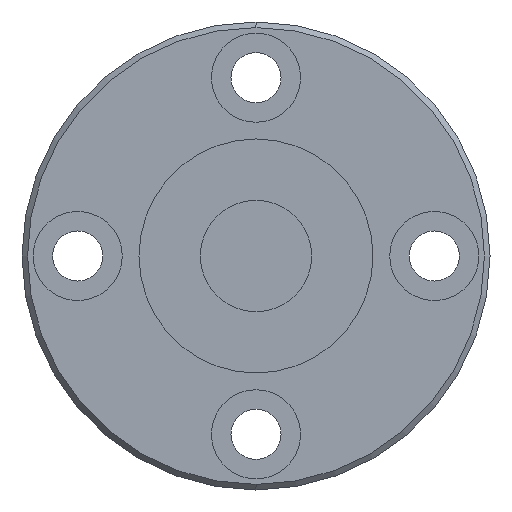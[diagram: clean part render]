
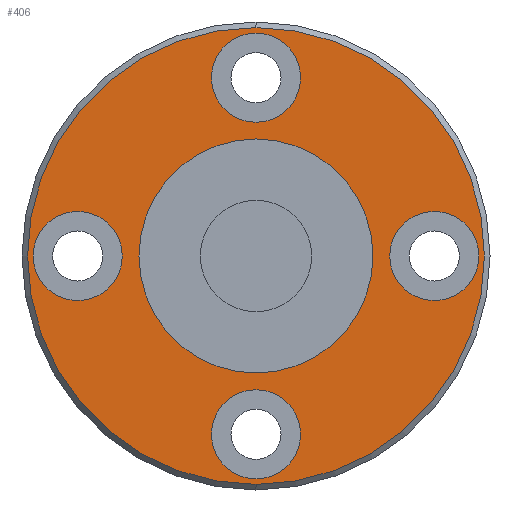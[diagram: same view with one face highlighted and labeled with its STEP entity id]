
A CAD part, left-side view. The second image highlights one B-rep face of the part: STEP entity #406.
In plain terms, the highlighted planar face has unit normal (-1, 0, 0).
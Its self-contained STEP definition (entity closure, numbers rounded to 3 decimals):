
#20 = CARTESIAN_POINT ( 'NONE',  ( 0., 0., 20. ) ) ;
#36 = CIRCLE ( 'NONE', #472, 4. ) ;
#40 = CIRCLE ( 'NONE', #2320, 10.5 ) ;
#62 = ORIENTED_EDGE ( 'NONE', *, *, #543, .F. ) ;
#91 = CARTESIAN_POINT ( 'NONE',  ( 0., -16., 0. ) ) ;
#95 = FACE_BOUND ( 'NONE', #1442, .T. ) ;
#146 = DIRECTION ( 'NONE',  ( 0., 0., 1. ) ) ;
#169 = DIRECTION ( 'NONE',  ( 0., -1., 0. ) ) ;
#187 = DIRECTION ( 'NONE',  ( 0., 0., -1. ) ) ;
#199 = VERTEX_POINT ( 'NONE', #20 ) ;
#232 = DIRECTION ( 'NONE',  ( -1., 0., 0. ) ) ;
#244 = DIRECTION ( 'NONE',  ( 0., -1., 0. ) ) ;
#250 = DIRECTION ( 'NONE',  ( 0., 0., 1. ) ) ;
#282 = DIRECTION ( 'NONE',  ( -1., 0., 0. ) ) ;
#302 = CIRCLE ( 'NONE', #1289, 4. ) ;
#328 = DIRECTION ( 'NONE',  ( -1., 0., 0. ) ) ;
#406 = ADVANCED_FACE ( 'NONE', ( #1185, #847, #462, #95, #475, #2262 ), #799, .F. ) ;
#408 = ORIENTED_EDGE ( 'NONE', *, *, #2014, .F. ) ;
#418 = AXIS2_PLACEMENT_3D ( 'NONE', #2102, #328, #1748 ) ;
#434 = CARTESIAN_POINT ( 'NONE',  ( 0., 16., -4. ) ) ;
#462 = FACE_BOUND ( 'NONE', #894, .T. ) ;
#472 = AXIS2_PLACEMENT_3D ( 'NONE', #1147, #1883, #250 ) ;
#475 = FACE_BOUND ( 'NONE', #693, .T. ) ;
#490 = CARTESIAN_POINT ( 'NONE',  ( 0., 0., -16. ) ) ;
#493 = CIRCLE ( 'NONE', #978, 20.5 ) ;
#523 = CARTESIAN_POINT ( 'NONE',  ( 0., 0., 16. ) ) ;
#543 = EDGE_CURVE ( 'NONE', #1159, #1797, #40, .T. ) ;
#564 = CARTESIAN_POINT ( 'NONE',  ( 0., 0., 20.5 ) ) ;
#570 = AXIS2_PLACEMENT_3D ( 'NONE', #2113, #1915, #2309 ) ;
#578 = EDGE_CURVE ( 'NONE', #2122, #1767, #636, .T. ) ;
#582 = VERTEX_POINT ( 'NONE', #1638 ) ;
#636 = CIRCLE ( 'NONE', #1988, 20.5 ) ;
#647 = DIRECTION ( 'NONE',  ( 0., 1., 0. ) ) ;
#653 = DIRECTION ( 'NONE',  ( -1., 0., 0. ) ) ;
#665 = DIRECTION ( 'NONE',  ( 0., 0., -1. ) ) ;
#667 = VERTEX_POINT ( 'NONE', #1765 ) ;
#689 = EDGE_CURVE ( 'NONE', #1611, #814, #1599, .T. ) ;
#693 = EDGE_LOOP ( 'NONE', ( #408, #1126 ) ) ;
#705 = DIRECTION ( 'NONE',  ( -1., 0., 0. ) ) ;
#735 = CIRCLE ( 'NONE', #2195, 4. ) ;
#749 = CIRCLE ( 'NONE', #418, 10.5 ) ;
#790 = EDGE_CURVE ( 'NONE', #814, #1611, #1802, .T. ) ;
#799 = PLANE ( 'NONE',  #570 ) ;
#813 = EDGE_CURVE ( 'NONE', #1797, #1159, #749, .T. ) ;
#814 = VERTEX_POINT ( 'NONE', #1733 ) ;
#847 = FACE_BOUND ( 'NONE', #1543, .T. ) ;
#894 = EDGE_LOOP ( 'NONE', ( #2112, #2031 ) ) ;
#977 = DIRECTION ( 'NONE',  ( -1., 0., 0. ) ) ;
#978 = AXIS2_PLACEMENT_3D ( 'NONE', #1579, #977, #665 ) ;
#987 = VERTEX_POINT ( 'NONE', #1467 ) ;
#1012 = CARTESIAN_POINT ( 'NONE',  ( 0., 16., 0. ) ) ;
#1039 = VERTEX_POINT ( 'NONE', #434 ) ;
#1094 = DIRECTION ( 'NONE',  ( -1., 0., 0. ) ) ;
#1126 = ORIENTED_EDGE ( 'NONE', *, *, #1983, .F. ) ;
#1147 = CARTESIAN_POINT ( 'NONE',  ( 0., 16., 0. ) ) ;
#1159 = VERTEX_POINT ( 'NONE', #1475 ) ;
#1185 = FACE_OUTER_BOUND ( 'NONE', #1582, .T. ) ;
#1198 = CARTESIAN_POINT ( 'NONE',  ( 0., 0., -16. ) ) ;
#1209 = AXIS2_PLACEMENT_3D ( 'NONE', #1358, #1535, #244 ) ;
#1210 = ORIENTED_EDGE ( 'NONE', *, *, #790, .F. ) ;
#1217 = DIRECTION ( 'NONE',  ( 0., 1., 0. ) ) ;
#1219 = EDGE_CURVE ( 'NONE', #582, #1429, #735, .T. ) ;
#1266 = DIRECTION ( 'NONE',  ( -1., 0., 0. ) ) ;
#1289 = AXIS2_PLACEMENT_3D ( 'NONE', #91, #653, #1564 ) ;
#1305 = CARTESIAN_POINT ( 'NONE',  ( 0., 0., -10.5 ) ) ;
#1358 = CARTESIAN_POINT ( 'NONE',  ( 0., 0., 16. ) ) ;
#1417 = ORIENTED_EDGE ( 'NONE', *, *, #1925, .F. ) ;
#1420 = DIRECTION ( 'NONE',  ( -1., 0., 0. ) ) ;
#1429 = VERTEX_POINT ( 'NONE', #2301 ) ;
#1442 = EDGE_LOOP ( 'NONE', ( #1557, #1210 ) ) ;
#1445 = CARTESIAN_POINT ( 'NONE',  ( 0., 0., 0. ) ) ;
#1458 = CARTESIAN_POINT ( 'NONE',  ( 0., 0., 0. ) ) ;
#1467 = CARTESIAN_POINT ( 'NONE',  ( 0., 16., 4. ) ) ;
#1475 = CARTESIAN_POINT ( 'NONE',  ( 0., 0., 10.5 ) ) ;
#1488 = EDGE_LOOP ( 'NONE', ( #62, #1842 ) ) ;
#1535 = DIRECTION ( 'NONE',  ( -1., 0., 0. ) ) ;
#1543 = EDGE_LOOP ( 'NONE', ( #2241, #1417 ) ) ;
#1557 = ORIENTED_EDGE ( 'NONE', *, *, #689, .F. ) ;
#1564 = DIRECTION ( 'NONE',  ( 0., 0., -1. ) ) ;
#1579 = CARTESIAN_POINT ( 'NONE',  ( 0., 0., 0. ) ) ;
#1582 = EDGE_LOOP ( 'NONE', ( #1743, #2187 ) ) ;
#1599 = CIRCLE ( 'NONE', #1644, 4. ) ;
#1611 = VERTEX_POINT ( 'NONE', #1992 ) ;
#1638 = CARTESIAN_POINT ( 'NONE',  ( 0., -16., -4. ) ) ;
#1641 = CIRCLE ( 'NONE', #1209, 4. ) ;
#1644 = AXIS2_PLACEMENT_3D ( 'NONE', #1198, #1916, #647 ) ;
#1733 = CARTESIAN_POINT ( 'NONE',  ( 0., 0., -20. ) ) ;
#1737 = AXIS2_PLACEMENT_3D ( 'NONE', #1012, #282, #1758 ) ;
#1743 = ORIENTED_EDGE ( 'NONE', *, *, #578, .T. ) ;
#1748 = DIRECTION ( 'NONE',  ( 0., 0., 1. ) ) ;
#1758 = DIRECTION ( 'NONE',  ( 0., 0., 1. ) ) ;
#1765 = CARTESIAN_POINT ( 'NONE',  ( 0., 0., 12. ) ) ;
#1767 = VERTEX_POINT ( 'NONE', #564 ) ;
#1770 = CARTESIAN_POINT ( 'NONE',  ( 0., 0., -20.5 ) ) ;
#1797 = VERTEX_POINT ( 'NONE', #1305 ) ;
#1798 = AXIS2_PLACEMENT_3D ( 'NONE', #523, #705, #169 ) ;
#1802 = CIRCLE ( 'NONE', #2025, 4. ) ;
#1842 = ORIENTED_EDGE ( 'NONE', *, *, #813, .F. ) ;
#1856 = CIRCLE ( 'NONE', #1737, 4. ) ;
#1866 = CARTESIAN_POINT ( 'NONE',  ( 0., -16., 0. ) ) ;
#1883 = DIRECTION ( 'NONE',  ( -1., 0., 0. ) ) ;
#1915 = DIRECTION ( 'NONE',  ( 1., 0., 0. ) ) ;
#1916 = DIRECTION ( 'NONE',  ( -1., 0., 0. ) ) ;
#1925 = EDGE_CURVE ( 'NONE', #667, #199, #1641, .T. ) ;
#1943 = CIRCLE ( 'NONE', #1798, 4. ) ;
#1983 = EDGE_CURVE ( 'NONE', #1039, #987, #36, .T. ) ;
#1988 = AXIS2_PLACEMENT_3D ( 'NONE', #1458, #1266, #187 ) ;
#1992 = CARTESIAN_POINT ( 'NONE',  ( 0., 0., -12. ) ) ;
#2014 = EDGE_CURVE ( 'NONE', #987, #1039, #1856, .T. ) ;
#2025 = AXIS2_PLACEMENT_3D ( 'NONE', #490, #1420, #1217 ) ;
#2031 = ORIENTED_EDGE ( 'NONE', *, *, #1219, .F. ) ;
#2044 = EDGE_CURVE ( 'NONE', #1429, #582, #302, .T. ) ;
#2102 = CARTESIAN_POINT ( 'NONE',  ( 0., 0., 0. ) ) ;
#2112 = ORIENTED_EDGE ( 'NONE', *, *, #2044, .F. ) ;
#2113 = CARTESIAN_POINT ( 'NONE',  ( 0., 21., 0. ) ) ;
#2122 = VERTEX_POINT ( 'NONE', #1770 ) ;
#2162 = EDGE_CURVE ( 'NONE', #1767, #2122, #493, .T. ) ;
#2173 = DIRECTION ( 'NONE',  ( 0., 0., -1. ) ) ;
#2187 = ORIENTED_EDGE ( 'NONE', *, *, #2162, .T. ) ;
#2195 = AXIS2_PLACEMENT_3D ( 'NONE', #1866, #232, #2173 ) ;
#2214 = EDGE_CURVE ( 'NONE', #199, #667, #1943, .T. ) ;
#2241 = ORIENTED_EDGE ( 'NONE', *, *, #2214, .F. ) ;
#2262 = FACE_BOUND ( 'NONE', #1488, .T. ) ;
#2301 = CARTESIAN_POINT ( 'NONE',  ( 0., -16., 4. ) ) ;
#2309 = DIRECTION ( 'NONE',  ( 0., 0., -1. ) ) ;
#2320 = AXIS2_PLACEMENT_3D ( 'NONE', #1445, #1094, #146 ) ;
